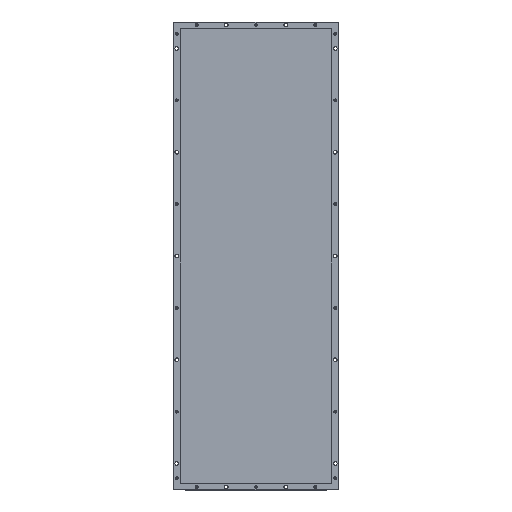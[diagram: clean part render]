
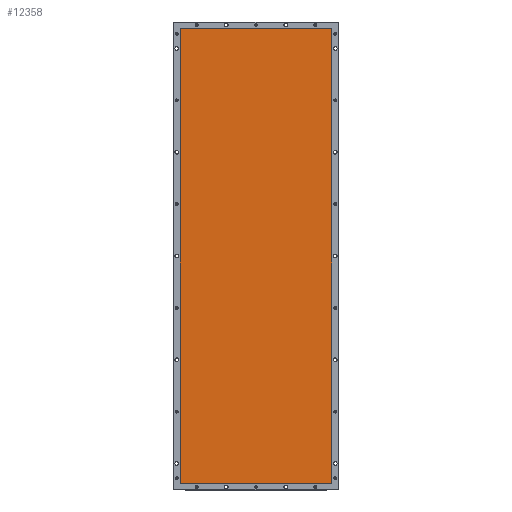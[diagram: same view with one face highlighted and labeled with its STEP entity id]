
A CAD part, top view. The second image highlights one B-rep face of the part: STEP entity #12358.
In plain terms, the highlighted planar face has unit normal (0, 0, 1).
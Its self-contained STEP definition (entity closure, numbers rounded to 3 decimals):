
#1072=CIRCLE('',#13380,2.);
#1077=CIRCLE('',#13388,2.);
#1078=CIRCLE('',#13391,2.);
#1079=CIRCLE('',#13394,2.);
#1700=FACE_OUTER_BOUND('',#2568,.T.);
#2568=EDGE_LOOP('',(#9501,#9502,#9503,#9504,#9505,#9506,#9507,#9508));
#3591=LINE('',#19268,#4697);
#3597=LINE('',#19288,#4703);
#3600=LINE('',#19296,#4706);
#3602=LINE('',#19302,#4708);
#4697=VECTOR('',#15552,10.);
#4703=VECTOR('',#15572,10.);
#4706=VECTOR('',#15581,10.);
#4708=VECTOR('',#15589,10.);
#5820=VERTEX_POINT('',#19255);
#5821=VERTEX_POINT('',#19256);
#5825=VERTEX_POINT('',#19266);
#5831=VERTEX_POINT('',#19282);
#5832=VERTEX_POINT('',#19286);
#5833=VERTEX_POINT('',#19290);
#5834=VERTEX_POINT('',#19294);
#5835=VERTEX_POINT('',#19298);
#7140=EDGE_CURVE('',#5820,#5821,#1072,.T.);
#7146=EDGE_CURVE('',#5820,#5825,#3591,.T.);
#7153=EDGE_CURVE('',#5831,#5825,#1077,.T.);
#7156=EDGE_CURVE('',#5831,#5832,#3597,.T.);
#7157=EDGE_CURVE('',#5833,#5832,#1078,.T.);
#7160=EDGE_CURVE('',#5833,#5834,#3600,.T.);
#7161=EDGE_CURVE('',#5835,#5834,#1079,.T.);
#7163=EDGE_CURVE('',#5835,#5821,#3602,.T.);
#9501=ORIENTED_EDGE('',*,*,#7140,.F.);
#9502=ORIENTED_EDGE('',*,*,#7146,.T.);
#9503=ORIENTED_EDGE('',*,*,#7153,.F.);
#9504=ORIENTED_EDGE('',*,*,#7156,.T.);
#9505=ORIENTED_EDGE('',*,*,#7157,.F.);
#9506=ORIENTED_EDGE('',*,*,#7160,.T.);
#9507=ORIENTED_EDGE('',*,*,#7161,.F.);
#9508=ORIENTED_EDGE('',*,*,#7163,.T.);
#11864=PLANE('',#13396);
#12358=ADVANCED_FACE('',(#1700),#11864,.T.);
#13380=AXIS2_PLACEMENT_3D('',#19257,#15542,#15543);
#13388=AXIS2_PLACEMENT_3D('',#19283,#15566,#15567);
#13391=AXIS2_PLACEMENT_3D('',#19291,#15575,#15576);
#13394=AXIS2_PLACEMENT_3D('',#19299,#15584,#15585);
#13396=AXIS2_PLACEMENT_3D('',#19303,#15590,#15591);
#15542=DIRECTION('center_axis',(0.,0.,-1.));
#15543=DIRECTION('ref_axis',(0.707,0.707,0.));
#15552=DIRECTION('',(-1.,0.,0.));
#15566=DIRECTION('center_axis',(0.,0.,-1.));
#15567=DIRECTION('ref_axis',(-0.707,0.707,0.));
#15572=DIRECTION('',(0.,-1.,0.));
#15575=DIRECTION('center_axis',(0.,0.,-1.));
#15576=DIRECTION('ref_axis',(-0.707,-0.707,0.));
#15581=DIRECTION('',(1.,0.,0.));
#15584=DIRECTION('center_axis',(0.,0.,-1.));
#15585=DIRECTION('ref_axis',(0.707,-0.707,0.));
#15589=DIRECTION('',(0.,1.,0.));
#15590=DIRECTION('center_axis',(0.,0.,1.));
#15591=DIRECTION('ref_axis',(1.,0.,0.));
#19255=CARTESIAN_POINT('',(125.5,383.5,27.3));
#19256=CARTESIAN_POINT('',(127.5,381.5,27.3));
#19257=CARTESIAN_POINT('Origin',(125.5,381.5,27.3));
#19266=CARTESIAN_POINT('',(-125.5,383.5,27.3));
#19268=CARTESIAN_POINT('',(-127.5,383.5,27.3));
#19282=CARTESIAN_POINT('',(-127.5,381.5,27.3));
#19283=CARTESIAN_POINT('Origin',(-125.5,381.5,27.3));
#19286=CARTESIAN_POINT('',(-127.5,-381.5,27.3));
#19288=CARTESIAN_POINT('',(-127.5,-383.5,27.3));
#19290=CARTESIAN_POINT('',(-125.5,-383.5,27.3));
#19291=CARTESIAN_POINT('Origin',(-125.5,-381.5,27.3));
#19294=CARTESIAN_POINT('',(125.5,-383.5,27.3));
#19296=CARTESIAN_POINT('',(127.5,-383.5,27.3));
#19298=CARTESIAN_POINT('',(127.5,-381.5,27.3));
#19299=CARTESIAN_POINT('Origin',(125.5,-381.5,27.3));
#19302=CARTESIAN_POINT('',(127.5,383.5,27.3));
#19303=CARTESIAN_POINT('Origin',(0.,0.,27.3));
